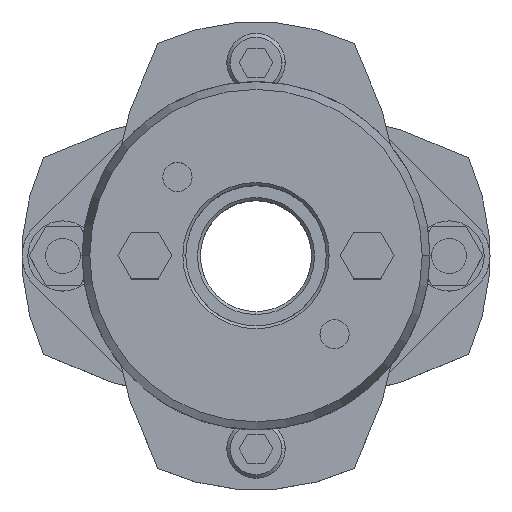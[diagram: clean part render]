
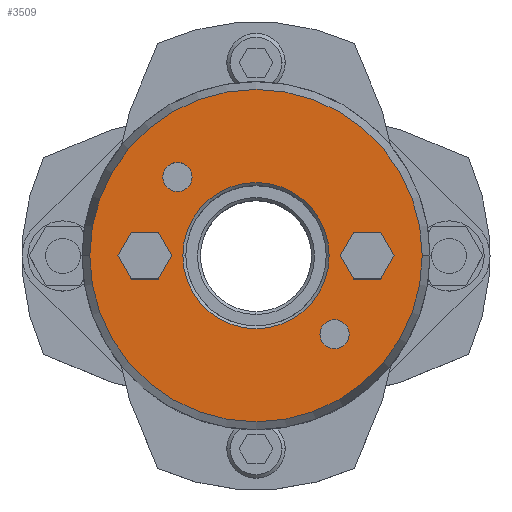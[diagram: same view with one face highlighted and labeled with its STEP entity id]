
A CAD part, top view. The second image highlights one B-rep face of the part: STEP entity #3509.
In plain terms, the highlighted planar face has unit normal (0, 0, 1).
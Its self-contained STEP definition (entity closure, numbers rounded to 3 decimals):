
#1471=CARTESIAN_POINT('',(-12.5,0.,35.875));
#1472=VERTEX_POINT('',#1471);
#1488=CARTESIAN_POINT('',(12.5,0.,35.875));
#1489=VERTEX_POINT('',#1488);
#1496=CARTESIAN_POINT('',(0.,0.,35.875));
#1497=DIRECTION('',(0.0,0.0,1.0));
#1498=DIRECTION('',(-1.0,0.0,0.0));
#1499=AXIS2_PLACEMENT_3D('',#1496,#1497,#1498);
#1500=CIRCLE('',#1499,12.5);
#1501=EDGE_CURVE('',#1489,#1472,#1500,.T.);
#1617=CARTESIAN_POINT('',(28.41,0.,35.875));
#1618=VERTEX_POINT('',#1617);
#1627=CARTESIAN_POINT('',(-28.41,0.,35.875));
#1628=VERTEX_POINT('',#1627);
#1629=CARTESIAN_POINT('',(0.,0.,35.875));
#1630=DIRECTION('',(0.0,0.0,-1.0));
#1631=DIRECTION('',(1.0,0.0,0.0));
#1632=AXIS2_PLACEMENT_3D('',#1629,#1630,#1631);
#1633=CIRCLE('',#1632,28.41);
#1634=EDGE_CURVE('',#1618,#1628,#1633,.T.);
#1803=CARTESIAN_POINT('',(-15.935,13.435,35.875));
#1804=VERTEX_POINT('',#1803);
#1820=CARTESIAN_POINT('',(-10.935,13.435,35.875));
#1821=VERTEX_POINT('',#1820);
#1828=CARTESIAN_POINT('',(-13.435,13.435,35.875));
#1829=DIRECTION('',(0.0,0.0,-1.0));
#1830=DIRECTION('',(-1.0,0.0,0.0));
#1831=AXIS2_PLACEMENT_3D('',#1828,#1829,#1830);
#1832=CIRCLE('',#1831,2.5);
#1833=EDGE_CURVE('',#1804,#1821,#1832,.T.);
#1845=CARTESIAN_POINT('',(10.935,-13.435,35.875));
#1846=VERTEX_POINT('',#1845);
#1862=CARTESIAN_POINT('',(15.935,-13.435,35.875));
#1863=VERTEX_POINT('',#1862);
#1870=CARTESIAN_POINT('',(13.435,-13.435,35.875));
#1871=DIRECTION('',(0.0,0.0,-1.0));
#1872=DIRECTION('',(-1.0,0.0,0.0));
#1873=AXIS2_PLACEMENT_3D('',#1870,#1871,#1872);
#1874=CIRCLE('',#1873,2.5);
#1875=EDGE_CURVE('',#1846,#1863,#1874,.T.);
#2635=CARTESIAN_POINT('',(14.381,0.,35.875));
#2636=VERTEX_POINT('',#2635);
#2643=CARTESIAN_POINT('',(16.691,-4.,35.875));
#2644=VERTEX_POINT('',#2643);
#2645=CARTESIAN_POINT('',(16.691,-4.,35.875));
#2646=DIRECTION('',(-0.5,0.866,0.0));
#2647=VECTOR('',#2646,4.619);
#2648=LINE('',#2645,#2647);
#2649=EDGE_CURVE('',#2644,#2636,#2648,.T.);
#2673=CARTESIAN_POINT('',(16.691,4.,35.875));
#2674=VERTEX_POINT('',#2673);
#2681=CARTESIAN_POINT('',(14.381,0.,35.875));
#2682=DIRECTION('',(0.5,0.866,0.0));
#2683=VECTOR('',#2682,4.619);
#2684=LINE('',#2681,#2683);
#2685=EDGE_CURVE('',#2636,#2674,#2684,.T.);
#2704=CARTESIAN_POINT('',(21.309,4.,35.875));
#2705=VERTEX_POINT('',#2704);
#2712=CARTESIAN_POINT('',(16.691,4.,35.875));
#2713=DIRECTION('',(1.0,0.0,0.0));
#2714=VECTOR('',#2713,4.619);
#2715=LINE('',#2712,#2714);
#2716=EDGE_CURVE('',#2674,#2705,#2715,.T.);
#2735=CARTESIAN_POINT('',(23.619,0.,35.875));
#2736=VERTEX_POINT('',#2735);
#2743=CARTESIAN_POINT('',(21.309,4.,35.875));
#2744=DIRECTION('',(0.5,-0.866,0.0));
#2745=VECTOR('',#2744,4.619);
#2746=LINE('',#2743,#2745);
#2747=EDGE_CURVE('',#2705,#2736,#2746,.T.);
#2766=CARTESIAN_POINT('',(21.309,-4.,35.875));
#2767=VERTEX_POINT('',#2766);
#2774=CARTESIAN_POINT('',(23.619,0.,35.875));
#2775=DIRECTION('',(-0.5,-0.866,0.0));
#2776=VECTOR('',#2775,4.619);
#2777=LINE('',#2774,#2776);
#2778=EDGE_CURVE('',#2736,#2767,#2777,.T.);
#2796=CARTESIAN_POINT('',(21.309,-4.,35.875));
#2797=DIRECTION('',(-1.0,0.0,0.0));
#2798=VECTOR('',#2797,4.619);
#2799=LINE('',#2796,#2798);
#2800=EDGE_CURVE('',#2767,#2644,#2799,.T.);
#2835=CARTESIAN_POINT('',(-23.619,0.,35.875));
#2836=VERTEX_POINT('',#2835);
#2843=CARTESIAN_POINT('',(-21.309,-4.,35.875));
#2844=VERTEX_POINT('',#2843);
#2845=CARTESIAN_POINT('',(-21.309,-4.,35.875));
#2846=DIRECTION('',(-0.5,0.866,0.0));
#2847=VECTOR('',#2846,4.619);
#2848=LINE('',#2845,#2847);
#2849=EDGE_CURVE('',#2844,#2836,#2848,.T.);
#2873=CARTESIAN_POINT('',(-21.309,4.,35.875));
#2874=VERTEX_POINT('',#2873);
#2881=CARTESIAN_POINT('',(-23.619,0.,35.875));
#2882=DIRECTION('',(0.5,0.866,0.0));
#2883=VECTOR('',#2882,4.619);
#2884=LINE('',#2881,#2883);
#2885=EDGE_CURVE('',#2836,#2874,#2884,.T.);
#2904=CARTESIAN_POINT('',(-16.691,4.,35.875));
#2905=VERTEX_POINT('',#2904);
#2912=CARTESIAN_POINT('',(-21.309,4.,35.875));
#2913=DIRECTION('',(1.0,0.0,0.0));
#2914=VECTOR('',#2913,4.619);
#2915=LINE('',#2912,#2914);
#2916=EDGE_CURVE('',#2874,#2905,#2915,.T.);
#2935=CARTESIAN_POINT('',(-14.381,0.,35.875));
#2936=VERTEX_POINT('',#2935);
#2943=CARTESIAN_POINT('',(-16.691,4.,35.875));
#2944=DIRECTION('',(0.5,-0.866,0.0));
#2945=VECTOR('',#2944,4.619);
#2946=LINE('',#2943,#2945);
#2947=EDGE_CURVE('',#2905,#2936,#2946,.T.);
#2966=CARTESIAN_POINT('',(-16.691,-4.,35.875));
#2967=VERTEX_POINT('',#2966);
#2974=CARTESIAN_POINT('',(-14.381,0.,35.875));
#2975=DIRECTION('',(-0.5,-0.866,0.0));
#2976=VECTOR('',#2975,4.619);
#2977=LINE('',#2974,#2976);
#2978=EDGE_CURVE('',#2936,#2967,#2977,.T.);
#2996=CARTESIAN_POINT('',(-16.691,-4.,35.875));
#2997=DIRECTION('',(-1.0,0.0,0.0));
#2998=VECTOR('',#2997,4.619);
#2999=LINE('',#2996,#2998);
#3000=EDGE_CURVE('',#2967,#2844,#2999,.T.);
#3026=CARTESIAN_POINT('',(13.435,-13.435,35.875));
#3027=DIRECTION('',(0.0,0.0,-1.0));
#3028=DIRECTION('',(-1.0,0.0,0.0));
#3029=AXIS2_PLACEMENT_3D('',#3026,#3027,#3028);
#3030=CIRCLE('',#3029,2.5);
#3031=EDGE_CURVE('',#1863,#1846,#3030,.T.);
#3060=CARTESIAN_POINT('',(-13.435,13.435,35.875));
#3061=DIRECTION('',(0.0,0.0,-1.0));
#3062=DIRECTION('',(-1.0,0.0,0.0));
#3063=AXIS2_PLACEMENT_3D('',#3060,#3061,#3062);
#3064=CIRCLE('',#3063,2.5);
#3065=EDGE_CURVE('',#1821,#1804,#3064,.T.);
#3456=CARTESIAN_POINT('',(0.,0.,35.875));
#3457=DIRECTION('',(0.0,0.0,-1.0));
#3458=DIRECTION('',(1.0,0.0,0.0));
#3459=AXIS2_PLACEMENT_3D('',#3456,#3457,#3458);
#3460=CIRCLE('',#3459,28.41);
#3461=EDGE_CURVE('',#1628,#1618,#3460,.T.);
#3466=CARTESIAN_POINT('',(-2.364,0.,35.875));
#3467=DIRECTION('',(0.0,0.0,1.0));
#3468=DIRECTION('',(-1.0,0.0,0.0));
#3469=AXIS2_PLACEMENT_3D('',#3466,#3467,#3468);
#3470=PLANE('',#3469);
#3471=ORIENTED_EDGE('',*,*,#3461,.F.);
#3472=ORIENTED_EDGE('',*,*,#1634,.F.);
#3473=EDGE_LOOP('',(#3471,#3472));
#3474=FACE_OUTER_BOUND('',#3473,.T.);
#3475=ORIENTED_EDGE('',*,*,#2649,.T.);
#3476=ORIENTED_EDGE('',*,*,#2685,.T.);
#3477=ORIENTED_EDGE('',*,*,#2716,.T.);
#3478=ORIENTED_EDGE('',*,*,#2747,.T.);
#3479=ORIENTED_EDGE('',*,*,#2778,.T.);
#3480=ORIENTED_EDGE('',*,*,#2800,.T.);
#3481=EDGE_LOOP('',(#3475,#3476,#3477,#3478,#3479,#3480));
#3482=FACE_BOUND('',#3481,.T.);
#3483=ORIENTED_EDGE('',*,*,#2849,.T.);
#3484=ORIENTED_EDGE('',*,*,#2885,.T.);
#3485=ORIENTED_EDGE('',*,*,#2916,.T.);
#3486=ORIENTED_EDGE('',*,*,#2947,.T.);
#3487=ORIENTED_EDGE('',*,*,#2978,.T.);
#3488=ORIENTED_EDGE('',*,*,#3000,.T.);
#3489=EDGE_LOOP('',(#3483,#3484,#3485,#3486,#3487,#3488));
#3490=FACE_BOUND('',#3489,.T.);
#3491=ORIENTED_EDGE('',*,*,#1875,.T.);
#3492=ORIENTED_EDGE('',*,*,#3031,.T.);
#3493=EDGE_LOOP('',(#3491,#3492));
#3494=FACE_BOUND('',#3493,.T.);
#3495=ORIENTED_EDGE('',*,*,#1833,.T.);
#3496=ORIENTED_EDGE('',*,*,#3065,.T.);
#3497=EDGE_LOOP('',(#3495,#3496));
#3498=FACE_BOUND('',#3497,.T.);
#3499=ORIENTED_EDGE('',*,*,#1501,.F.);
#3500=CARTESIAN_POINT('',(0.,0.,35.875));
#3501=DIRECTION('',(0.0,0.0,1.0));
#3502=DIRECTION('',(-1.0,0.0,0.0));
#3503=AXIS2_PLACEMENT_3D('',#3500,#3501,#3502);
#3504=CIRCLE('',#3503,12.5);
#3505=EDGE_CURVE('',#1472,#1489,#3504,.T.);
#3506=ORIENTED_EDGE('',*,*,#3505,.F.);
#3507=EDGE_LOOP('',(#3499,#3506));
#3508=FACE_BOUND('',#3507,.T.);
#3509=ADVANCED_FACE('',(#3474,#3482,#3490,#3494,#3498,#3508),#3470,.T.);
